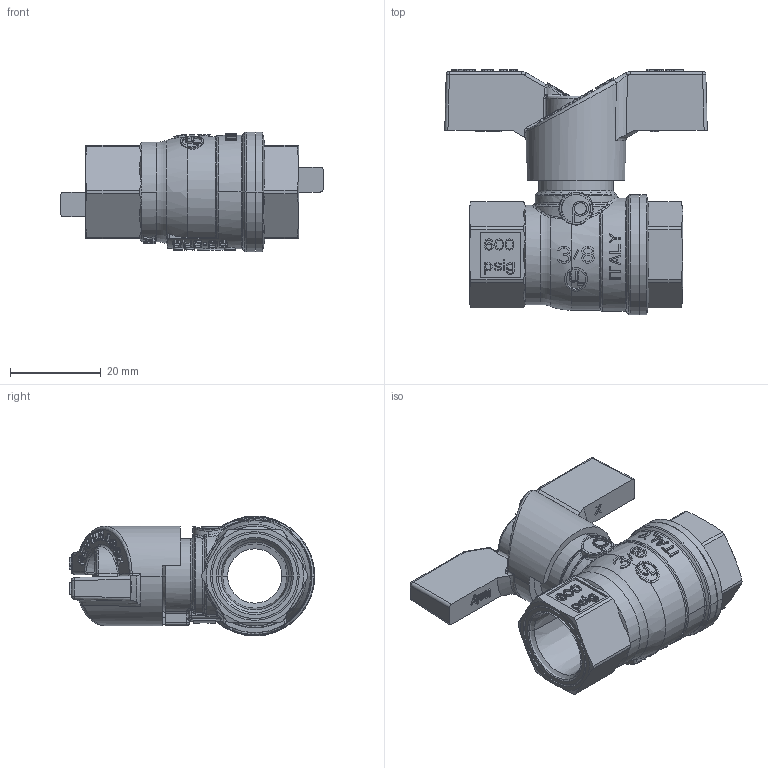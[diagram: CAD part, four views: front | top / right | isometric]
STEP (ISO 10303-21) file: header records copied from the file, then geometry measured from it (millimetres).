
FILE_DESCRIPTION((''),'2;1');
FILE_NAME('T204FF_38_ASM','2020-10-01T11:29:40',('sergio.dandrea'),(''),'CREO PARAMETRIC BY PTC INC, 2019471','CREO PARAMETRIC BY PTC INC, 2019471','');
FILE_SCHEMA(('CONFIG_CONTROL_DESIGN'));
Length unit declared in the file: millimetre
Products named in the file (8): 89075; SEDE_PTFE_F12; 87057; 88402; 89077; 89176; 87131; T204FF_38_ASM
Assembly tree (8 placements, depth 2):
  T204FF_38_ASM
    89075
    SEDE_PTFE_F12  x2
    87057
    88402
    89077
    89176
    87131
Bounding box: 58 x 54.25 x 26.5 mm (x, y, z)
Volume: 22249.5 mm3; surface area: 19672.9 mm2
Topology: 8 solids, 14 shells, 2089 faces, 5587 edges, 3626 vertices
Faces by surface type: plane 1134, extrusion 325, bspline 254, cylinder 194, cone 85, torus 69, sphere 28
Entity records: 76924 total; most frequent: CARTESIAN_POINT 28631, ORIENTED_EDGE 11086, DIRECTION 7926, EDGE_CURVE 5557, VERTEX_POINT 3610, VECTOR 3272, LINE 2947, AXIS2_PLACEMENT_3D 2327
